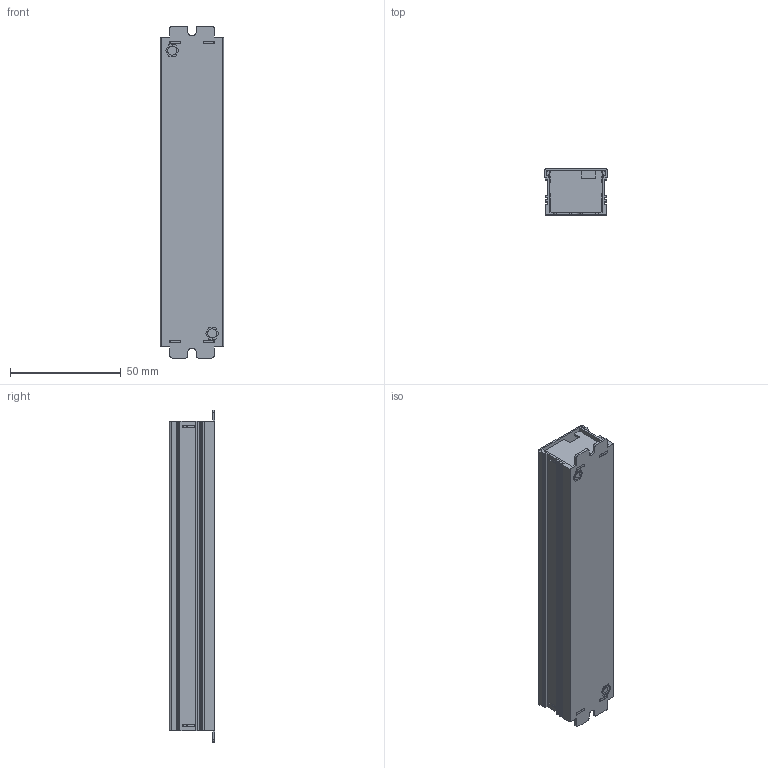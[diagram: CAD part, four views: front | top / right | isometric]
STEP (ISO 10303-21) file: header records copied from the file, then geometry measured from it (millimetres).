
FILE_DESCRIPTION((''),'2;1');
FILE_NAME('SVM_CASE_XINGCAI_ASM','2025-12-19T13:48:51',('Administrator'),(''),'CREO PARAMETRIC BY PTC INC, 2020053','CREO PARAMETRIC BY PTC INC, 2020053','');
FILE_SCHEMA(('CONFIG_CONTROL_DESIGN','SHAPE_APPEARANCE_LAYERS_GROUPS'));
Length unit declared in the file: millimetre
Products named in the file (5): SVM_BOTTOM_XINGCAI; SVM_TOP_XINGCAI; SVM_CEGAI_XINGCAI; NEILUOWEN-M3_10; SVM_CASE_XINGCAI_ASM
Assembly tree (6 placements, depth 2):
  SVM_CASE_XINGCAI_ASM
    SVM_BOTTOM_XINGCAI
    SVM_TOP_XINGCAI
    SVM_CEGAI_XINGCAI  x2
    NEILUOWEN-M3_10  x2
Bounding box: 28.5 x 20.7 x 150 mm (x, y, z)
Volume: 16323 mm3; surface area: 34070 mm2
Topology: 6 solids, 6 shells, 322 faces, 912 edges, 606 vertices
Faces by surface type: plane 212, cylinder 98, bspline 12
Entity records: 9014 total; most frequent: CARTESIAN_POINT 2409, ORIENTED_EDGE 1356, DIRECTION 1253, EDGE_CURVE 678, VECTOR 531, LINE 531, VERTEX_POINT 451, AXIS2_PLACEMENT_3D 361
